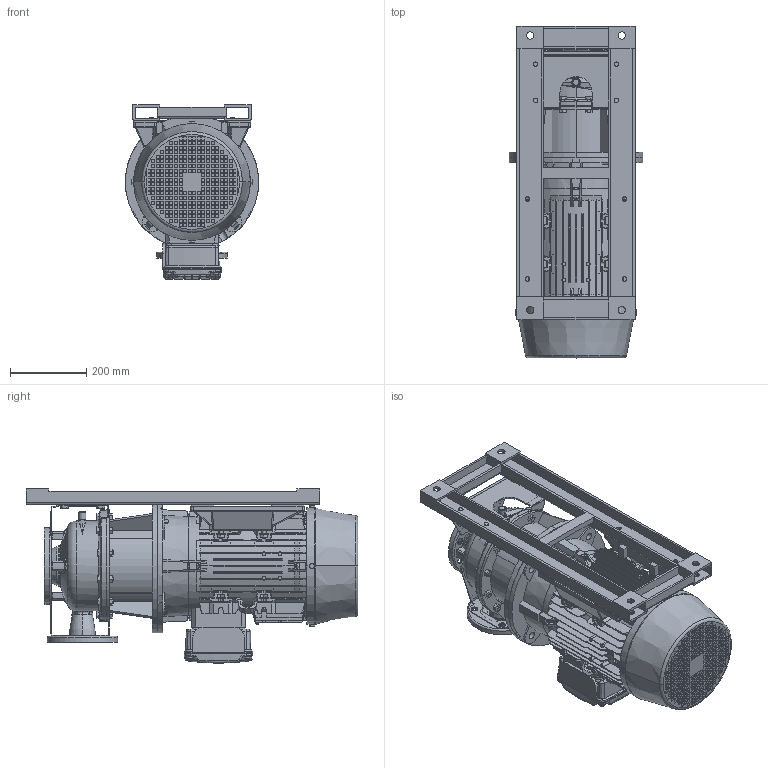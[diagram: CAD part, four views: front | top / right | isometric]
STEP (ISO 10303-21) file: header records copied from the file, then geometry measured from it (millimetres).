
FILE_DESCRIPTION (( 'STEP AP214' ), '1' );
FILE_NAME ('3LS 65-160_11.0_(160ML)_W21.STEP', '2026-09-08T23:47:09', ( '' ), ( '' ), 'SwSTEP 2.0', 'SolidWorks 2024', '' );
FILE_SCHEMA (( 'AUTOMOTIVE_DESIGN' ));
Length unit declared in the file: inch
Products named in the file (3): 65-160_11; 3LS 65-160_11.0_(160ML)_W21; 160M_L_ALIE3_W21T_B35
Assembly tree (2 placements, depth 2):
  3LS 65-160_11.0_(160ML)_W21
    65-160_11
    160M_L_ALIE3_W21T_B35
Bounding box: 350 x 869.8 x 456.5 mm (x, y, z)
Volume: 44218304.4 mm3; surface area: 3586592.6 mm2
Topology: 43 solids, 49 shells, 5593 faces, 14455 edges, 9385 vertices
Faces by surface type: plane 3688, cylinder 899, cone 487, bspline 358, torus 141, sphere 20
Entity records: 199578 total; most frequent: CARTESIAN_POINT 66729, ORIENTED_EDGE 28858, DIRECTION 24949, EDGE_CURVE 14429, VECTOR 9677, LINE 9677, VERTEX_POINT 9383, AXIS2_PLACEMENT_3D 7636
